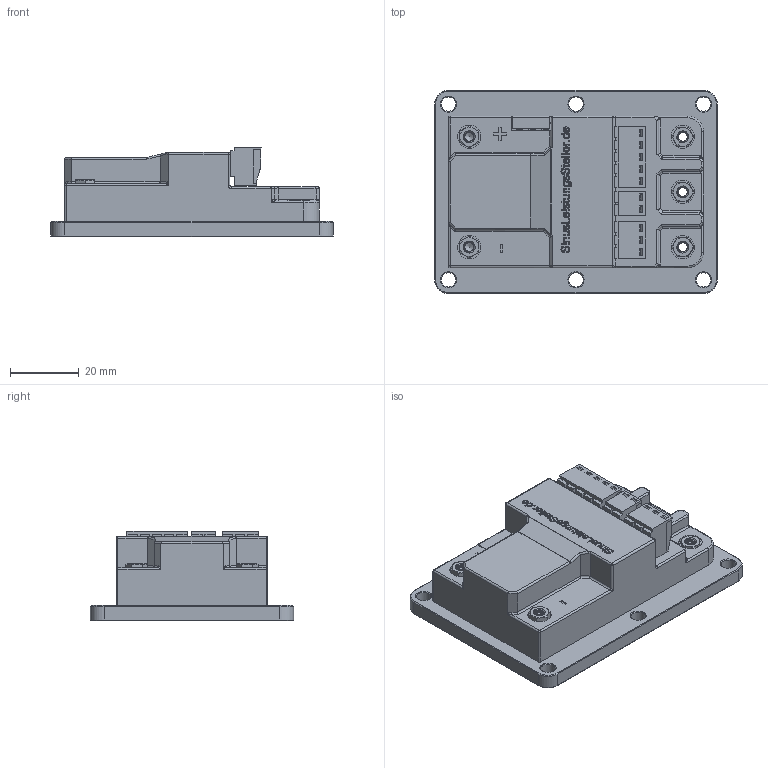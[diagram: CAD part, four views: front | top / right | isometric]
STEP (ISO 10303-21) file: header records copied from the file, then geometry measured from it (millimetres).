
FILE_DESCRIPTION(/* description */ ('Alibre Inc.'),/* implementation_level */ '2;1');
FILE_NAME(/* name */ 'export-388FA29F-A94F-4212-A628-5B79C6C8C983',/* time_stamp */ '2022-02-15T20:39:59+01:00',/* author */ (''),/* organization */ (''),/* preprocessor_version */ 'ST-DEVELOPER v17',/* originating_system */ 'Alibre',/* authorisation */ '');
FILE_SCHEMA (('AUTOMOTIVE_DESIGN'));
Length unit declared in the file: millimetre
Products named in the file (29): 691325110003; 6913211000xx_PIN; Assem1; 691325110002; 691321100005; 6913611000xx_CAGE; 6913611000xx_VIS; 6913611000xx_PIN; 691364100003_M; 691364100003; 691364100002_M; 691364100002; 691361100005_M; 691361100005
Bounding box: 82 x 59 x 26.05 mm (x, y, z)
Volume: 56291.7 mm3; surface area: 57343.1 mm2
Topology: 68 solids, 68 shells, 3791 faces, 10121 edges, 6605 vertices
Faces by surface type: plane 2477, cylinder 647, bspline 441, torus 140, cone 71, sphere 15
Full cylindrical faces by diameter (mm): 1.4 x10, 1.5 x20, 1.8 x10, 1.9 x30, 2.1 x10, 2.8 x20, 3 x18, 3.2 x12, 4.2 x6, 6.5 x4, 6.8 x5, 7 x4, 10 x2
Entity records: 95352 total; most frequent: CARTESIAN_POINT 25498, ORIENTED_EDGE 15156, DIRECTION 10666, EDGE_CURVE 7578, VECTOR 5593, LINE 5593, VERTEX_POINT 5013, AXIS2_PLACEMENT_3D 3500
